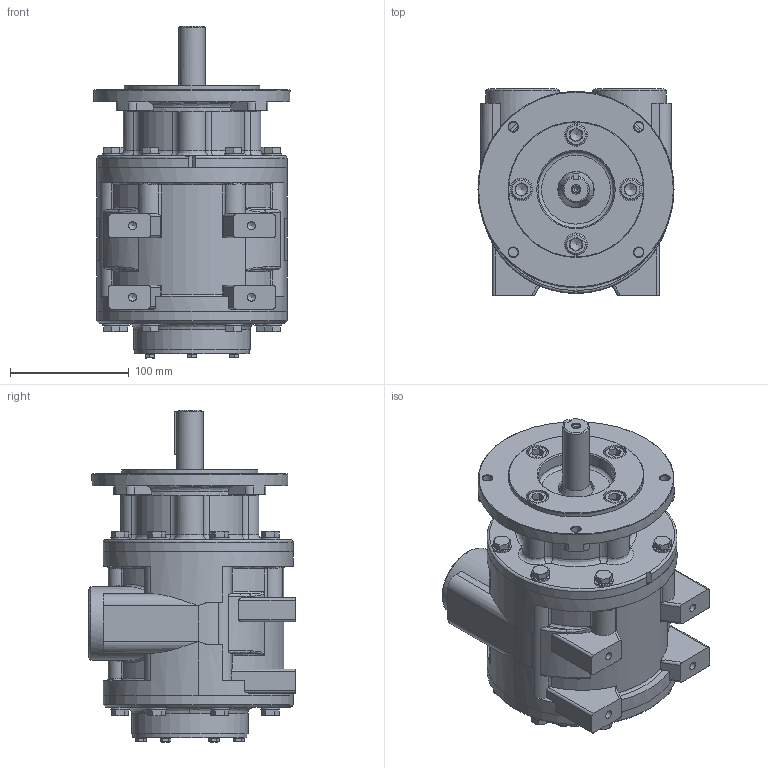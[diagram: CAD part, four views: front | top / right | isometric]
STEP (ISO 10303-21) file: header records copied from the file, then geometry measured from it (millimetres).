
FILE_DESCRIPTION (( 'STEP AP214' ), '1' );
FILE_NAME ('VA10C Defeature.STEP', '2022-06-14T09:23:06', ( '' ), ( '' ), 'SwSTEP 2.0', 'SolidWorks 2020', '' );
FILE_SCHEMA (( 'AUTOMOTIVE_DESIGN' ));
Length unit declared in the file: millimetre
Products named in the file (1): VA10C Defeature
Bounding box: 165 x 174 x 279.4 mm (x, y, z)
Volume: 3753483.1 mm3; surface area: 225722.4 mm2
Topology: 1 solids, 1 shells, 909 faces, 2182 edges, 1294 vertices
Faces by surface type: plane 460, cylinder 179, cone 160, bspline 94, sphere 16
Full cylindrical faces by diameter (mm): 3 x1, 6.8 x4, 7.938 x4, 8 x7, 13 x16, 16 x16, 18 x4, 19 x4, 22.23 x1, 30 x1, 30.5 x1, 38.952 x2, 62 x2, 64 x1, 96 x1, 98 x1, 114.3 x1, 116 x1, 158 x2, 160 x3, 165 x1
Entity records: 44820 total; most frequent: CARTESIAN_POINT 22430, ORIENTED_EDGE 4010, DIRECTION 3745, EDGE_CURVE 2005, AXIS2_PLACEMENT_3D 1501, VERTEX_POINT 1243, EDGE_LOOP 1062, FACE_OUTER_BOUND 984
